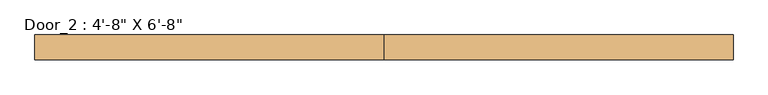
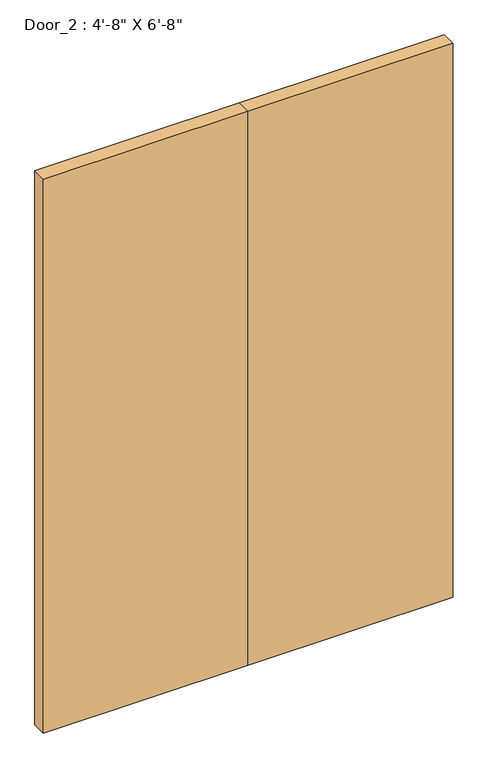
"""IFC4 building model written with IfcOpenShell, lengths in millimetres: door geometry."""

from ifc_helpers import new_model, si_unit, origin, origin_with_axes, place, context, project, spatial, polyline, outline, extrude, source, transform, mapped, element, save


def door_757b25a2(model_context):
    return source(origin(), model_context, "Body", "SweptSolid", [
        extrude(outline(polyline([(0.0, 69.85), (711.2, 69.85), (711.2, 19.05), (0.0, 19.05), (0.0, 69.85)])), origin_with_axes(), (0.0, 0.0, 1.0), 2032.0),
        extrude(outline(polyline([(-711.2, 69.85), (0.0, 69.85), (0.0, 19.05), (-711.2, 19.05), (-711.2, 69.85)])), origin_with_axes(), (0.0, 0.0, 1.0), 2032.0),
    ])


if __name__ == "__main__":
    model = new_model("IFC4")
    model_context = context("Model", 3, world=origin())
    ifc_project = project(units=[si_unit("LENGTHUNIT", "METRE", prefix="MILLI")], contexts=[model_context])
    site = spatial("IfcSite", under=ifc_project)
    building = spatial("IfcBuilding", under=site)
    placement = place(None, origin())
    door_shape = door_757b25a2(model_context)
    element("IfcDoor", 1, ObjectType="Door_2 : 4'-8\" X 6'-8\"", at=placement, inside=building, context=model_context, shape_type="MappedRepresentation", body=[
        mapped(door_shape, transform((0.0, 0.0, 0.0), x_axis=(1.0, 0.0, 0.0), y_axis=(0.0, 1.0, 0.0), z_axis=(0.0, 0.0, 1.0))),
    ])
    save(model, "model.ifc")
